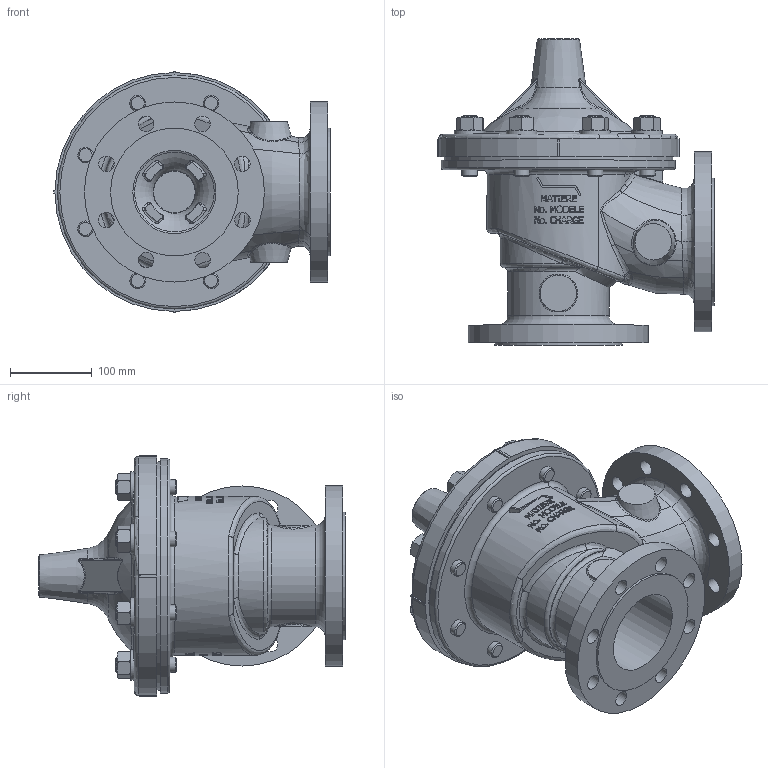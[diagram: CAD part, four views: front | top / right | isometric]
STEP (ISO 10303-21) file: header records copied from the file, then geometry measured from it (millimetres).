
FILE_DESCRIPTION(/* description */ (''),/* implementation_level */ '2;1');
FILE_NAME(/* name */ 'G:\Doc_Liberes\SymbolesCAD\Modeles_3D\FichierSTP\VanneDeBase\AE100-16RF.stp',/* time_stamp */ '2023-08-18T08:59:50+02:00',/* author */ ('theo'),/* organization */ (''),/* preprocessor_version */ 'ST-DEVELOPER v18.1',/* originating_system */ 'Autodesk Inventor 2022',/* authorisation */ '');
FILE_SCHEMA (('AUTOMOTIVE_DESIGN { 1 0 10303 214 3 1 1 }'));
Products named in the file (1): AE100-16_Simplifier_1
Bounding box: 338 x 374.73 x 295 mm (x, y, z)
Volume: 5707086.3 mm3; surface area: 771584.6 mm2
Topology: 1 solids, 1 shells, 1555 faces, 4096 edges, 2642 vertices
Faces by surface type: plane 725, bspline 369, cone 247, cylinder 164, torus 48, sphere 2
Full cylindrical faces by diameter (mm): 19 x16, 19.05 x24, 22 x1, 37.306 x8, 50.8 x1, 101.6 x2, 110.67 x1, 120 x1, 123.96 x1, 130 x1, 133.6 x2, 142.36 x1, 156 x2, 220 x2, 279.1 x1, 286 x1
Entity records: 91922 total; most frequent: CARTESIAN_POINT 56797, ORIENTED_EDGE 8172, DIRECTION 6001, EDGE_CURVE 4086, VERTEX_POINT 2642, AXIS2_PLACEMENT_3D 2256, EDGE_LOOP 1714, FACE_OUTER_BOUND 1555
